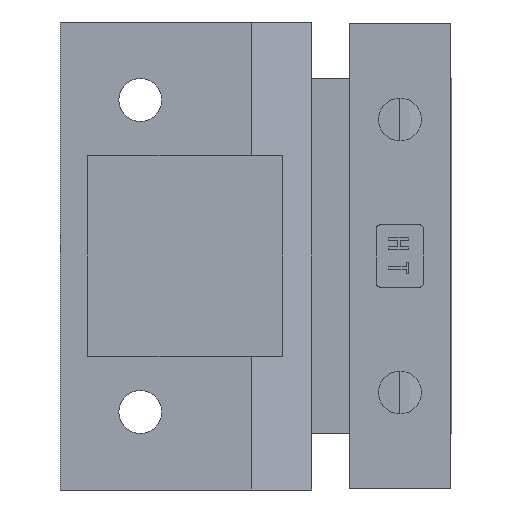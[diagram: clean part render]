
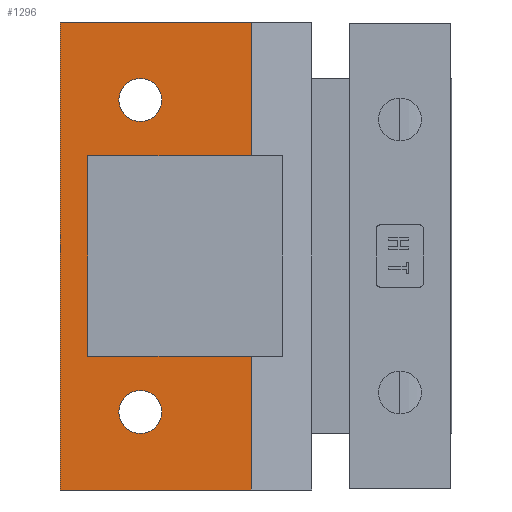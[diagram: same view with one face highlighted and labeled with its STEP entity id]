
A CAD part, front view. The second image highlights one B-rep face of the part: STEP entity #1296.
In plain terms, the highlighted planar face has unit normal (0, -1, 0).
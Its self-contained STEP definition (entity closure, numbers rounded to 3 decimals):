
#4 = DIRECTION ( 'NONE',  ( 1., 0., 0. ) ) ;
#41 = EDGE_CURVE ( 'NONE', #1358, #1190, #1014, .T. ) ;
#56 = VECTOR ( 'NONE', #410, 1000. ) ;
#105 = EDGE_CURVE ( 'NONE', #2793, #1358, #833, .T. ) ;
#111 = AXIS2_PLACEMENT_3D ( 'NONE', #1157, #939, #1883 ) ;
#208 = AXIS2_PLACEMENT_3D ( 'NONE', #1835, #2782, #4 ) ;
#274 = EDGE_CURVE ( 'NONE', #2724, #548, #1148, .T. ) ;
#359 = DIRECTION ( 'NONE',  ( 1., 0., 0. ) ) ;
#373 = CARTESIAN_POINT ( 'NONE',  ( -24.5, 0., -30. ) ) ;
#374 = EDGE_CURVE ( 'NONE', #548, #2724, #806, .T. ) ;
#397 = EDGE_CURVE ( 'NONE', #1625, #1038, #2298, .T. ) ;
#399 = VERTEX_POINT ( 'NONE', #3054 ) ;
#410 = DIRECTION ( 'NONE',  ( 0., 0., -1. ) ) ;
#456 = CARTESIAN_POINT ( 'NONE',  ( 0., 0., -30. ) ) ;
#479 = EDGE_CURVE ( 'NONE', #726, #399, #1727, .T. ) ;
#504 = VECTOR ( 'NONE', #2243, 1000. ) ;
#506 = VECTOR ( 'NONE', #1221, 1000. ) ;
#548 = VERTEX_POINT ( 'NONE', #2207 ) ;
#560 = VECTOR ( 'NONE', #2747, 1000. ) ;
#591 = LINE ( 'NONE', #2484, #2599 ) ;
#629 = LINE ( 'NONE', #883, #2108 ) ;
#638 = EDGE_CURVE ( 'NONE', #2385, #1162, #1597, .T. ) ;
#664 = ORIENTED_EDGE ( 'NONE', *, *, #2675, .F. ) ;
#726 = VERTEX_POINT ( 'NONE', #2331 ) ;
#770 = AXIS2_PLACEMENT_3D ( 'NONE', #1912, #2145, #2841 ) ;
#806 = CIRCLE ( 'NONE', #111, 2.75 ) ;
#833 = LINE ( 'NONE', #1086, #560 ) ;
#862 = DIRECTION ( 'NONE',  ( 0., -1., 0. ) ) ;
#883 = CARTESIAN_POINT ( 'NONE',  ( -21., 0., 12.85 ) ) ;
#904 = CARTESIAN_POINT ( 'NONE',  ( -24.5, 0., 30. ) ) ;
#939 = DIRECTION ( 'NONE',  ( 0., -1., 0. ) ) ;
#971 = CARTESIAN_POINT ( 'NONE',  ( 0., 0., -30. ) ) ;
#995 = DIRECTION ( 'NONE',  ( 1., 0., 0. ) ) ;
#1001 = EDGE_LOOP ( 'NONE', ( #1560, #664 ) ) ;
#1008 = EDGE_CURVE ( 'NONE', #399, #1190, #1540, .T. ) ;
#1014 = LINE ( 'NONE', #971, #506 ) ;
#1038 = VERTEX_POINT ( 'NONE', #1952 ) ;
#1039 = DIRECTION ( 'NONE',  ( 0., 0., -1. ) ) ;
#1077 = AXIS2_PLACEMENT_3D ( 'NONE', #2992, #862, #2761 ) ;
#1086 = CARTESIAN_POINT ( 'NONE',  ( -24.5, 0., 30. ) ) ;
#1102 = ORIENTED_EDGE ( 'NONE', *, *, #638, .F. ) ;
#1131 = CARTESIAN_POINT ( 'NONE',  ( 0., 0., 30. ) ) ;
#1148 = CIRCLE ( 'NONE', #208, 2.75 ) ;
#1157 = CARTESIAN_POINT ( 'NONE',  ( -14.25, 0., 20. ) ) ;
#1162 = VERTEX_POINT ( 'NONE', #2797 ) ;
#1190 = VERTEX_POINT ( 'NONE', #456 ) ;
#1196 = VECTOR ( 'NONE', #1039, 1000. ) ;
#1221 = DIRECTION ( 'NONE',  ( 1., 0., 0. ) ) ;
#1296 = ADVANCED_FACE ( 'NONE', ( #1663, #1679, #1714 ), #2662, .F. ) ;
#1358 = VERTEX_POINT ( 'NONE', #373 ) ;
#1392 = ORIENTED_EDGE ( 'NONE', *, *, #274, .F. ) ;
#1458 = CARTESIAN_POINT ( 'NONE',  ( 0., 0., 12.85 ) ) ;
#1474 = ORIENTED_EDGE ( 'NONE', *, *, #2460, .T. ) ;
#1482 = EDGE_CURVE ( 'NONE', #2793, #2385, #591, .T. ) ;
#1524 = CARTESIAN_POINT ( 'NONE',  ( 0., 0., 30. ) ) ;
#1540 = LINE ( 'NONE', #1524, #1196 ) ;
#1560 = ORIENTED_EDGE ( 'NONE', *, *, #397, .F. ) ;
#1592 = EDGE_LOOP ( 'NONE', ( #1851, #2729, #2222, #1474, #1102, #1936, #2965, #2314 ) ) ;
#1597 = LINE ( 'NONE', #1131, #56 ) ;
#1625 = VERTEX_POINT ( 'NONE', #2368 ) ;
#1652 = DIRECTION ( 'NONE',  ( 0., -1., 0. ) ) ;
#1663 = FACE_BOUND ( 'NONE', #2632, .T. ) ;
#1664 = CIRCLE ( 'NONE', #1077, 2.75 ) ;
#1679 = FACE_BOUND ( 'NONE', #1001, .T. ) ;
#1692 = LINE ( 'NONE', #1458, #1760 ) ;
#1714 = FACE_OUTER_BOUND ( 'NONE', #1592, .T. ) ;
#1727 = LINE ( 'NONE', #2689, #504 ) ;
#1760 = VECTOR ( 'NONE', #995, 1000. ) ;
#1830 = DIRECTION ( 'NONE',  ( 0., 0., -1. ) ) ;
#1835 = CARTESIAN_POINT ( 'NONE',  ( -14.25, 0., 20. ) ) ;
#1851 = ORIENTED_EDGE ( 'NONE', *, *, #1008, .F. ) ;
#1883 = DIRECTION ( 'NONE',  ( 1., 0., 0. ) ) ;
#1912 = CARTESIAN_POINT ( 'NONE',  ( 0., 0., 30. ) ) ;
#1936 = ORIENTED_EDGE ( 'NONE', *, *, #1482, .F. ) ;
#1952 = CARTESIAN_POINT ( 'NONE',  ( -17., 0., -20. ) ) ;
#1994 = EDGE_CURVE ( 'NONE', #2191, #726, #629, .T. ) ;
#2101 = CARTESIAN_POINT ( 'NONE',  ( -14.25, 0., -20. ) ) ;
#2108 = VECTOR ( 'NONE', #1830, 1000. ) ;
#2145 = DIRECTION ( 'NONE',  ( 0., 1., 0. ) ) ;
#2191 = VERTEX_POINT ( 'NONE', #2921 ) ;
#2207 = CARTESIAN_POINT ( 'NONE',  ( -17., 0., 20. ) ) ;
#2222 = ORIENTED_EDGE ( 'NONE', *, *, #1994, .F. ) ;
#2243 = DIRECTION ( 'NONE',  ( 1., 0., 0. ) ) ;
#2261 = ORIENTED_EDGE ( 'NONE', *, *, #374, .F. ) ;
#2298 = CIRCLE ( 'NONE', #2889, 2.75 ) ;
#2314 = ORIENTED_EDGE ( 'NONE', *, *, #41, .T. ) ;
#2331 = CARTESIAN_POINT ( 'NONE',  ( -21., 0., -12.85 ) ) ;
#2351 = CARTESIAN_POINT ( 'NONE',  ( -11.5, 0., 20. ) ) ;
#2368 = CARTESIAN_POINT ( 'NONE',  ( -11.5, 0., -20. ) ) ;
#2385 = VERTEX_POINT ( 'NONE', #3060 ) ;
#2460 = EDGE_CURVE ( 'NONE', #2191, #1162, #1692, .T. ) ;
#2484 = CARTESIAN_POINT ( 'NONE',  ( 0., 0., 30. ) ) ;
#2599 = VECTOR ( 'NONE', #359, 1000. ) ;
#2602 = DIRECTION ( 'NONE',  ( 1., 0., 0. ) ) ;
#2632 = EDGE_LOOP ( 'NONE', ( #1392, #2261 ) ) ;
#2662 = PLANE ( 'NONE',  #770 ) ;
#2675 = EDGE_CURVE ( 'NONE', #1038, #1625, #1664, .T. ) ;
#2689 = CARTESIAN_POINT ( 'NONE',  ( -21., 0., -12.85 ) ) ;
#2724 = VERTEX_POINT ( 'NONE', #2351 ) ;
#2729 = ORIENTED_EDGE ( 'NONE', *, *, #479, .F. ) ;
#2747 = DIRECTION ( 'NONE',  ( 0., 0., -1. ) ) ;
#2761 = DIRECTION ( 'NONE',  ( 1., 0., 0. ) ) ;
#2782 = DIRECTION ( 'NONE',  ( 0., -1., 0. ) ) ;
#2793 = VERTEX_POINT ( 'NONE', #904 ) ;
#2797 = CARTESIAN_POINT ( 'NONE',  ( 0., 0., 12.85 ) ) ;
#2841 = DIRECTION ( 'NONE',  ( -1., 0., 0. ) ) ;
#2889 = AXIS2_PLACEMENT_3D ( 'NONE', #2101, #1652, #2602 ) ;
#2921 = CARTESIAN_POINT ( 'NONE',  ( -21., 0., 12.85 ) ) ;
#2965 = ORIENTED_EDGE ( 'NONE', *, *, #105, .T. ) ;
#2992 = CARTESIAN_POINT ( 'NONE',  ( -14.25, 0., -20. ) ) ;
#3054 = CARTESIAN_POINT ( 'NONE',  ( 0., 0., -12.85 ) ) ;
#3060 = CARTESIAN_POINT ( 'NONE',  ( 0., 0., 30. ) ) ;
